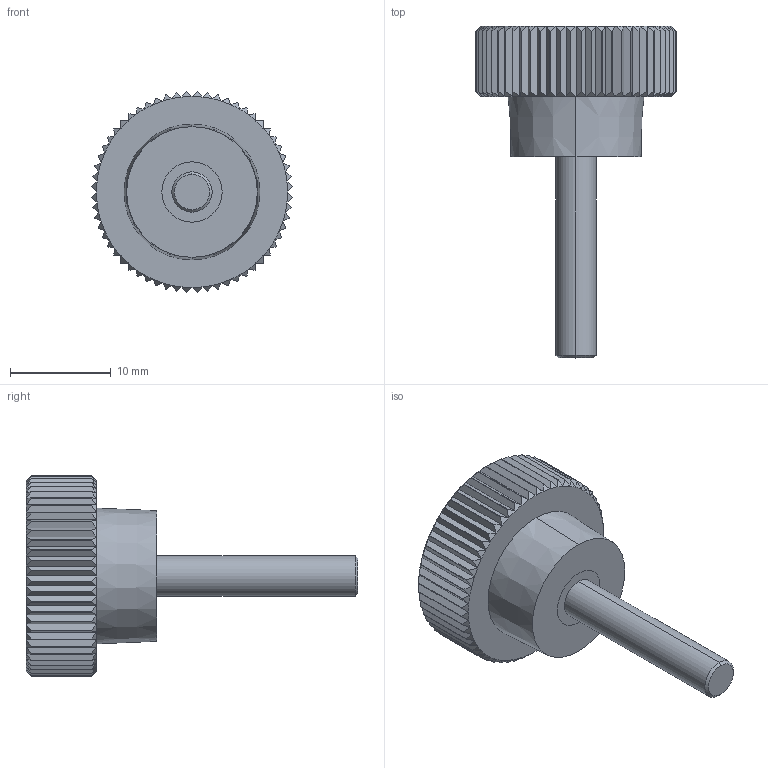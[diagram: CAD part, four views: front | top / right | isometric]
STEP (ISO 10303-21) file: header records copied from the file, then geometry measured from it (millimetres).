
FILE_DESCRIPTION (( 'STEP AP203' ), '1' );
FILE_NAME ('wn4662_20-m4x20.step', '2007-02-15T10:21:51', ( 'Magnus Fahlstrom' ), ( '' ), 'SwSTEP 2.0', 'SolidWorks 2007', '' );
FILE_SCHEMA (( 'CONFIG_CONTROL_DESIGN' ));
Length unit declared in the file: millimetre
Products named in the file (1): wn4662_20-m4x20
Bounding box: 19.98 x 33 x 19.98 mm (x, y, z)
Volume: 3102.3 mm3; surface area: 1943.6 mm2
Topology: 3 solids, 3 shells, 321 faces, 694 edges, 382 vertices
Faces by surface type: plane 129, cone 126, cylinder 66
Entity records: 8787 total; most frequent: CARTESIAN_POINT 2118, ORIENTED_EDGE 1388, DIRECTION 1360, EDGE_CURVE 694, AXIS2_PLACEMENT_3D 584, VERTEX_POINT 382, EDGE_LOOP 324, ADVANCED_FACE 321
